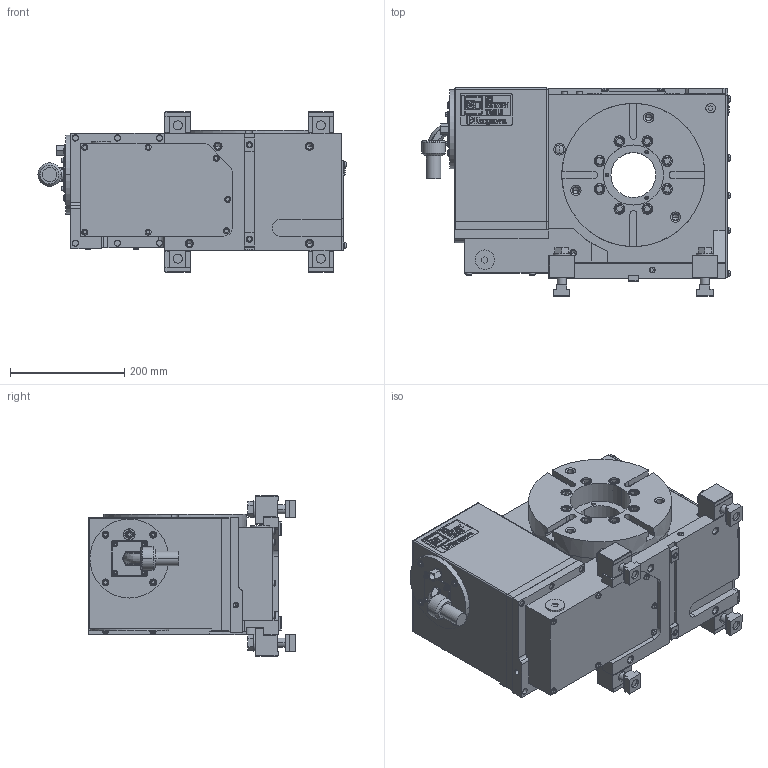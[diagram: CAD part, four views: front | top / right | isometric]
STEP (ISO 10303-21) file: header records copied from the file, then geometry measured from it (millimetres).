
FILE_DESCRIPTION (( 'STEP AP214' ), '1' );
FILE_NAME ('TLX250BV.STEP', '2020-02-28T05:05:29', ( '' ), ( '' ), 'SwSTEP 2.0', 'SolidWorks 2017', '' );
FILE_SCHEMA (( 'AUTOMOTIVE_DESIGN' ));
Length unit declared in the file: millimetre
Products named in the file (17): モータケース(61E2714950)TLX250B20; フランジ(61E3729220)TLX250B20; TLX250B01僋儈僞僥(61E112163); 僆僀儖僄儗儊儞僩丂俥俤亅侾俀丂僀儅僆; 僠僃僢僋僶儖僽丂CVR01-A-10W; ガイドブロック(61M4197783); オイルゲージ 207; テーブルT溝250; 儂儞僞僀ASSY(61E1121624)TLX250B01; TLX250BV; CLAMPING PARTS(61E430226)結合; TLX250B20ホンタイ; キタガワシール; 働乕僽儖N29ZSZ2562; SMC KQ2E06-02; コネクタプレート(61E4479762)TRX320B20; 僇僶乕丂俹(61E4458433)MR250RAM01
Assembly tree (21 placements, depth 4):
  TLX250BV
    TLX250B20ホンタイ
      TLX250B01僋儈僞僥(61E112163)
        儂儞僞僀ASSY(61E1121624)TLX250B01
        テーブルT溝250
        オイルゲージ 207  x2
        ガイドブロック(61M4197783)  x2
        僠僃僢僋僶儖僽丂CVR01-A-10W
        僆僀儖僄儗儊儞僩丂俥俤亅侾俀丂僀儅僆
      フランジ(61E3729220)TLX250B20
      モータケース(61E2714950)TLX250B20
      僇僶乕丂俹(61E4458433)MR250RAM01
      コネクタプレート(61E4479762)TRX320B20
      SMC KQ2E06-02
      働乕僽儖N29ZSZ2562
      キタガワシール
    CLAMPING PARTS(61E430226)結合  x4
Bounding box: 538.3 x 363 x 281 mm (x, y, z)
Volume: 27751185.3 mm3; surface area: 1308352.8 mm2
Topology: 19 solids, 36 shells, 3417 faces, 8740 edges, 5685 vertices
Faces by surface type: plane 2462, cylinder 677, cone 191, torus 66, sphere 12, bspline 9
Entity records: 111150 total; most frequent: CARTESIAN_POINT 17643, ORIENTED_EDGE 16446, DIRECTION 16256, EDGE_CURVE 8223, VECTOR 6572, LINE 6572, VERTEX_POINT 5399, AXIS2_PLACEMENT_3D 4842
